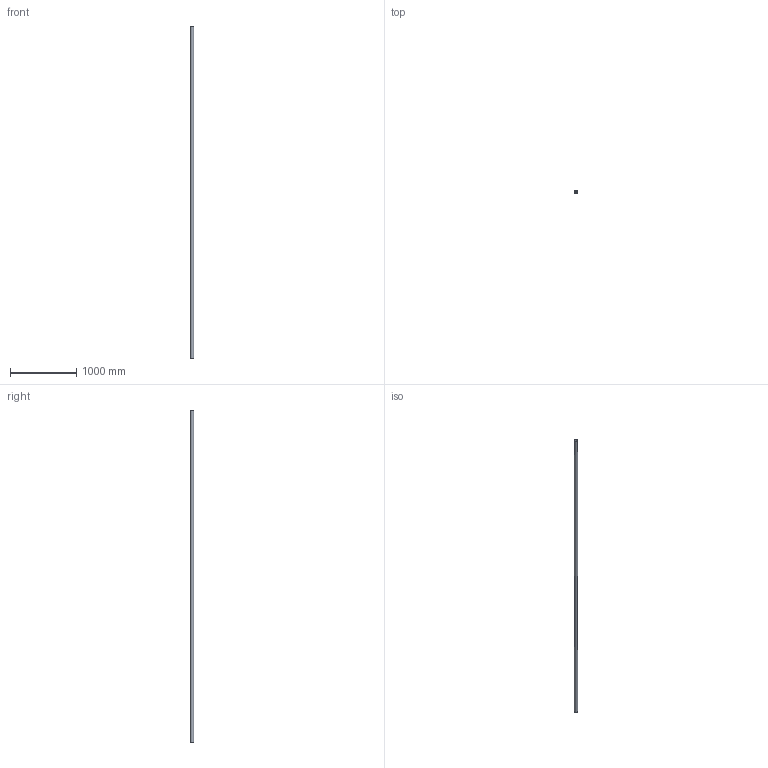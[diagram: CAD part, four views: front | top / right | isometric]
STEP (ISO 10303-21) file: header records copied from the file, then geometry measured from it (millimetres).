
FILE_DESCRIPTION(/* description */ (''),/* implementation_level */ '2;1');
FILE_NAME(/* name */ 'C:\Geberit-Teile\Export 2019\379.000.16.0\stp\361000.stp',/* time_stamp */ '2019-06-06T10:48:14+02:00',/* author */ ('JANAN'),/* organization */ (''),/* preprocessor_version */ 'ST-DEVELOPER v16.13',/* originating_system */ 'Autodesk Inventor 2018',/* authorisation */ '');
FILE_SCHEMA (('AUTOMOTIVE_DESIGN { 1 0 10303 214 3 1 1 }'));
Length unit declared in the file: millimetre
Products named in the file (1): Rohr PE-HD d50x3 L5000
Bounding box: 50 x 50 x 5000 mm (x, y, z)
Volume: 2214822.8 mm3; surface area: 1477434.5 mm2
Topology: 1 solids, 1 shells, 4 faces, 6 edges, 4 vertices
Faces by surface type: cylinder 2, plane 2
Full cylindrical faces by diameter (mm): 44 x1, 50 x1
Entity records: 131 total; most frequent: DIRECTION 18, CARTESIAN_POINT 13, AXIS2_PLACEMENT_3D 9, EDGE_LOOP 8, ORIENTED_EDGE 8, STYLED_ITEM 5, FACE_BOUND 4, FACE_OUTER_BOUND 4
